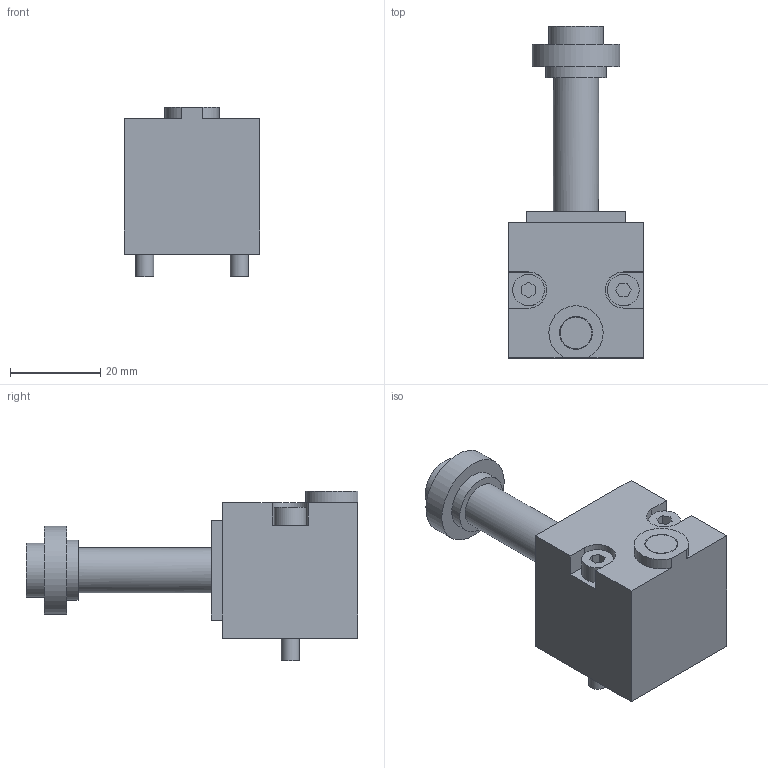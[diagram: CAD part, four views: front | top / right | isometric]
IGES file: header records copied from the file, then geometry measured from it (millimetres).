
Global section: file name: M##; native system: Autodesk Inventor 2014; preprocessor: unknown; author: S.Locatelli; organization: Pneumax S.p.A.; date: 20161004.162125; units: millimetre
Bounding box: 30 x 73.5 x 37.5 mm (x, y, z)
Volume: 32867.5 mm3; surface area: 8255.9 mm2
Topology: 1 solids, 1 shells, 55 faces, 128 edges, 88 vertices
Faces by surface type: bspline 55
